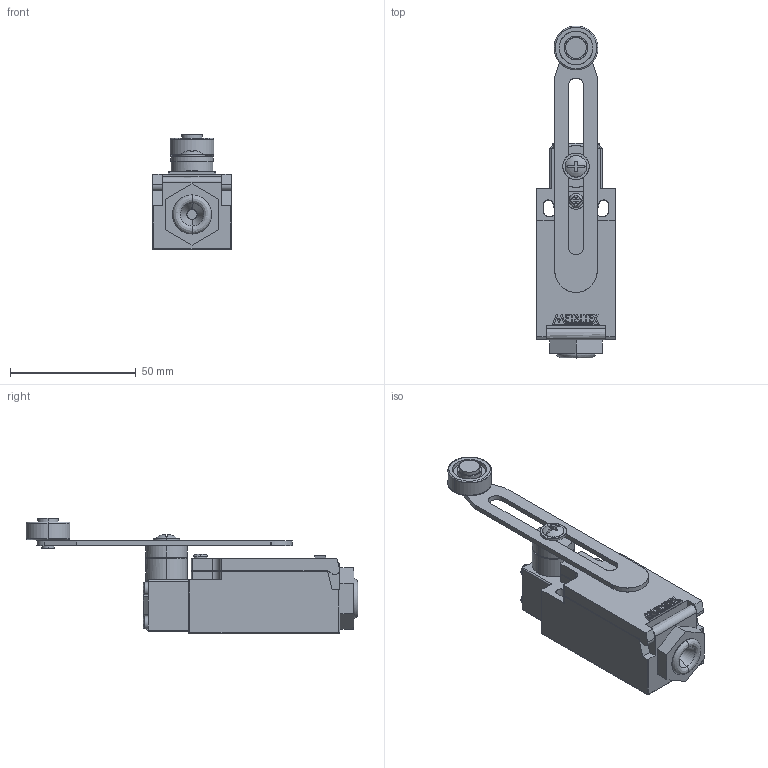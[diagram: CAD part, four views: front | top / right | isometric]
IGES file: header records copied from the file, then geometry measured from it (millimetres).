
Start section: SolidWorks IGES file using analytic representation for surfaces
Global section: file name: D:\X - Arquivos\PROEX\Empresas\P11 - METALTEX\01 - Produtos\IGES\4ª remessa\5ª etapa\FM9208.IGS; native system: SolidWorks 2012; preprocessor: SolidWorks 2012; author: Usuario; date: 180601.135750; units: millimetre
Bounding box: 31.3 x 131.7 x 45.85 mm (x, y, z)
Surface area: 17484 mm2 (no closed solid volume)
Topology: 0 solids, 0 shells, 419 faces, 4057 edges, 4053 vertices
Faces by surface type: bspline 315, revolution 104
